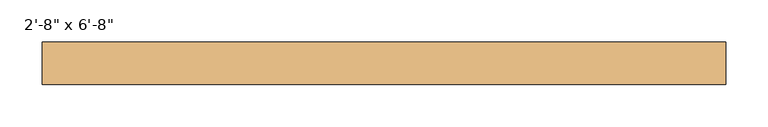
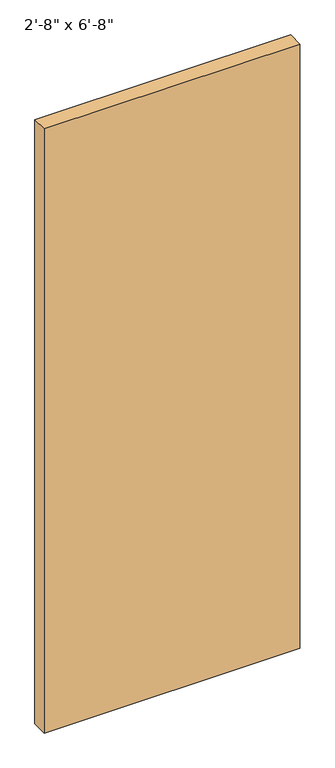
"""IFC4 building model written with IfcOpenShell, lengths in millimetres: door geometry."""

from ifc_helpers import new_model, si_unit, origin, origin_with_axes, place, context, project, spatial, polyline, outline, extrude, source, transform, mapped, element, save


def door_729cbc23(model_context):
    return source(origin(), model_context, "Body", "SweptSolid", [
        extrude(outline(polyline([(406.5, 31.55), (-406.5, 31.55), (-406.5, 82.55), (406.5, 82.55), (406.5, 31.55)])), origin_with_axes(), (0.0, 0.0, 1.0), 2032.0),
    ])


if __name__ == "__main__":
    model = new_model("IFC4")
    model_context = context("Model", 3, world=origin())
    ifc_project = project(units=[si_unit("LENGTHUNIT", "METRE", prefix="MILLI")], contexts=[model_context])
    site = spatial("IfcSite", under=ifc_project)
    building = spatial("IfcBuilding", under=site)
    placement = place(None, origin())
    door_shape = door_729cbc23(model_context)
    element("IfcDoor", 1, ObjectType="Planitar - Single Door_Flush Panel : 2'-8\" x 6'-8\"", at=placement, inside=building, context=model_context, shape_type="MappedRepresentation", body=[
        mapped(door_shape, transform((0.0, 0.0, 0.0), x_axis=(1.0, 0.0, 0.0), y_axis=(0.0, 1.0, 0.0), z_axis=(0.0, 0.0, 1.0))),
    ])
    save(model, "model.ifc")
